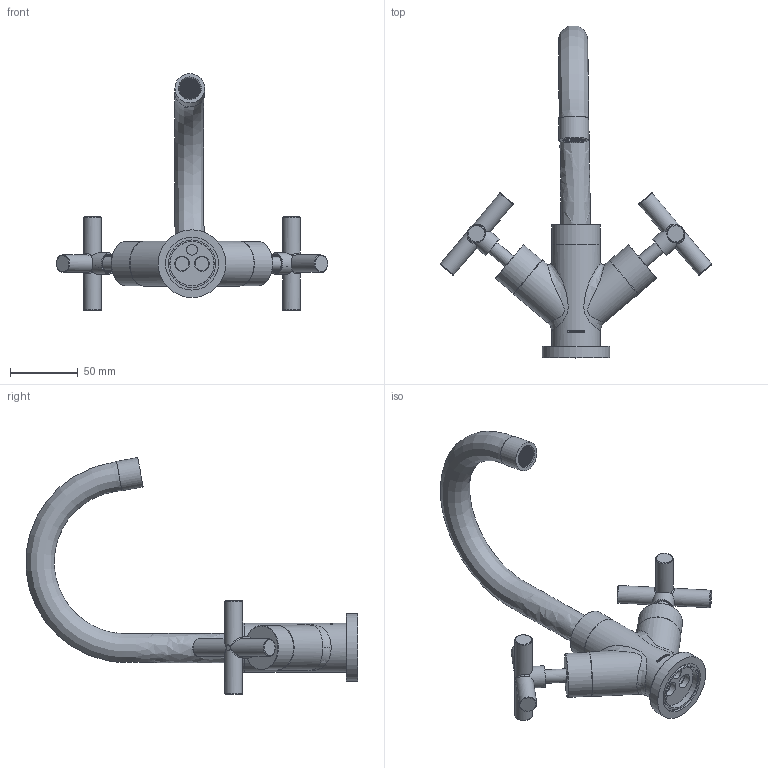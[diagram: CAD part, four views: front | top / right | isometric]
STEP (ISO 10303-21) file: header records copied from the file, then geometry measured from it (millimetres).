
FILE_DESCRIPTION(/* description */ (''),/* implementation_level */ '2;1');
FILE_NAME(/* name */ 'c:\worker\convert-fusion-r07\tmp\job-1\10\output\files\d718cd96-d933-4b5a-87df-a311e0ac49e4\50e91706-425a-43f2-a58e-9f329c53d12d.stp',/* time_stamp */ '2020-10-01T09:40:47+00:00',/* author */ (''),/* organization */ (''),/* preprocessor_version */ 'ST-DEVELOPER v18.1',/* originating_system */ 'Autodesk Translation Framework v9.3.0.1241',/* authorisation */ '');
FILE_SCHEMA (('AUTOMOTIVE_DESIGN { 1 0 10303 214 3 1 1 }'));
Products named in the file (2): !C301; LOGO NOWE v1
Assembly tree (1 placements, depth 2):
  !C301
    LOGO NOWE v1
Bounding box: 200.52 x 245.03 x 174.85 mm (x, y, z)
Volume: 282326.2 mm3; surface area: 101959.6 mm2
Topology: 38 solids, 38 shells, 3148 faces, 9215 edges, 6133 vertices
Faces by surface type: plane 2538, cylinder 286, bspline 240, cone 50, torus 32, sphere 2
Full cylindrical faces by diameter (mm): 2 x2, 4 x4, 7.7 x2, 7.8 x2, 8 x3, 10 x4, 10.3 x2, 11 x4, 13 x23, 13.5 x1, 14 x4, 15 x1, 15.1 x1, 15.5 x2, 15.56 x2, 16 x4, 16.1 x1, 16.5 x2, 17 x1, 18 x6, 18.5 x1, 19 x19, 20.5 x5, 21 x1, 21.5 x2, 22 x1, 23 x1, 24 x4, 24.5 x5, 26 x4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
Entity records: 169144 total; most frequent: CARTESIAN_POINT 82406, ORIENTED_EDGE 18426, DIRECTION 17867, EDGE_CURVE 9213, AXIS2_PLACEMENT_3D 6636, VERTEX_POINT 6133, LINE 4595, VECTOR 4595
